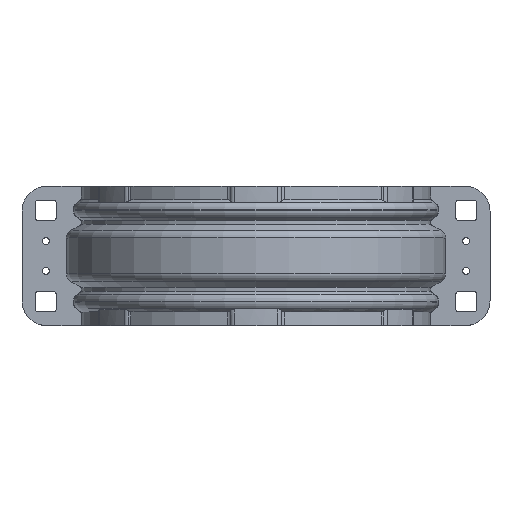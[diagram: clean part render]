
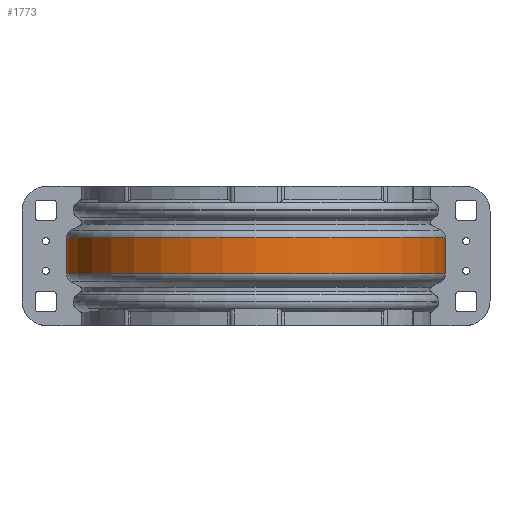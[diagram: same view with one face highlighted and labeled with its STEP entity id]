
A CAD part, top view. The second image highlights one B-rep face of the part: STEP entity #1773.
In plain terms, the highlighted cylindrical face has radius 153.3 mm (diameter 306.6 mm), a partial arc.
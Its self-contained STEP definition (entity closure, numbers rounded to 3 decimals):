
#1773=ADVANCED_FACE('',(#2589),#2020,.T.);
#2020=CYLINDRICAL_SURFACE('',#12638,153.3);
#2589=FACE_OUTER_BOUND('',#3217,.T.);
#3217=EDGE_LOOP('',(#7159,#7160,#7161,#7162));
#3637=CIRCLE('',#12594,153.3);
#3652=CIRCLE('',#12620,153.3);
#7159=ORIENTED_EDGE('',*,*,#10306,.T.);
#7160=ORIENTED_EDGE('',*,*,#10322,.T.);
#7161=ORIENTED_EDGE('',*,*,#10280,.F.);
#7162=ORIENTED_EDGE('',*,*,#9999,.T.);
#8303=VERTEX_POINT('',#22565);
#8304=VERTEX_POINT('',#22567);
#8497=VERTEX_POINT('',#23773);
#8510=VERTEX_POINT('',#23849);
#9999=EDGE_CURVE('',#8304,#8303,#10953,.T.);
#10280=EDGE_CURVE('',#8304,#8497,#3637,.T.);
#10306=EDGE_CURVE('',#8303,#8510,#3652,.T.);
#10322=EDGE_CURVE('',#8510,#8497,#11038,.T.);
#10953=LINE('',#22566,#11693);
#11038=LINE('',#23902,#11778);
#11693=VECTOR('',#14540,1.);
#11778=VECTOR('',#15093,1.);
#12594=AXIS2_PLACEMENT_3D('',#23772,#14999,#15000);
#12620=AXIS2_PLACEMENT_3D('',#23850,#15055,#15056);
#12638=AXIS2_PLACEMENT_3D('',#23903,#15094,#15095);
#14540=DIRECTION('',(0.,-1.,0.));
#14999=DIRECTION('',(0.,1.,0.));
#15000=DIRECTION('',(0.,0.,1.));
#15055=DIRECTION('',(0.,1.,0.));
#15056=DIRECTION('',(0.,0.,-1.));
#15093=DIRECTION('',(0.,1.,0.));
#15094=DIRECTION('',(0.,-1.,0.));
#15095=DIRECTION('',(0.866,0.,-0.5));
#22565=CARTESIAN_POINT('',(1037.95,41.837,-0.009));
#22566=CARTESIAN_POINT('',(1037.95,53.537,-0.009));
#22567=CARTESIAN_POINT('',(1037.95,70.872,-0.009));
#23772=CARTESIAN_POINT('',(1191.249,70.872,-0.518));
#23773=CARTESIAN_POINT('',(1344.548,70.872,-0.009));
#23849=CARTESIAN_POINT('',(1344.548,41.837,-0.009));
#23850=CARTESIAN_POINT('',(1191.249,41.837,-0.518));
#23902=CARTESIAN_POINT('',(1344.548,53.537,-0.009));
#23903=CARTESIAN_POINT('',(1191.249,53.537,-0.518));
